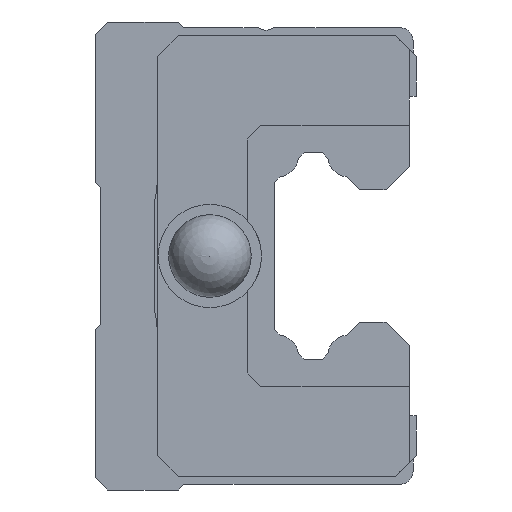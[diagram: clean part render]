
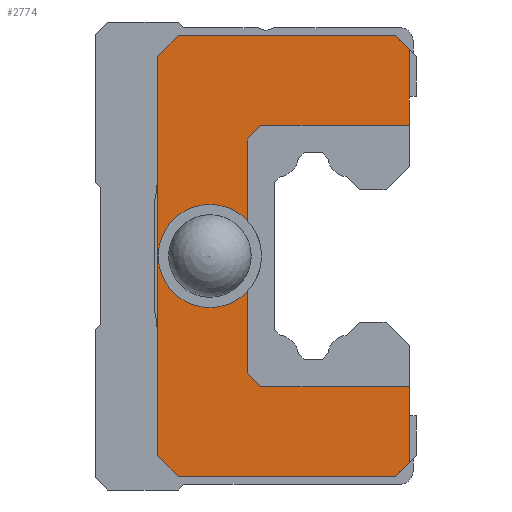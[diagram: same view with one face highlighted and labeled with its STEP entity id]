
A CAD part, left-side view. The second image highlights one B-rep face of the part: STEP entity #2774.
In plain terms, the highlighted planar face has unit normal (-1, 0, 0).
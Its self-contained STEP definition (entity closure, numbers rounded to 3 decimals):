
#38=LINE('',#3869,#358);
#44=LINE('',#3883,#364);
#53=LINE('',#3902,#373);
#60=LINE('',#3918,#380);
#64=LINE('',#3925,#384);
#96=LINE('',#3992,#416);
#112=LINE('',#4025,#432);
#115=LINE('',#4030,#435);
#151=LINE('',#4103,#471);
#169=LINE('',#4138,#489);
#175=LINE('',#4151,#495);
#280=LINE('',#4443,#600);
#281=LINE('',#4445,#601);
#282=LINE('',#4446,#602);
#283=LINE('',#4448,#603);
#358=VECTOR('',#3117,1000.);
#364=VECTOR('',#3125,1000.);
#373=VECTOR('',#3136,1000.);
#380=VECTOR('',#3149,1000.);
#384=VECTOR('',#3155,1000.);
#416=VECTOR('',#3199,1000.);
#432=VECTOR('',#3217,1000.);
#435=VECTOR('',#3222,1000.);
#471=VECTOR('',#3280,1000.);
#489=VECTOR('',#3304,1000.);
#495=VECTOR('',#3312,1000.);
#600=VECTOR('',#3615,1000.);
#601=VECTOR('',#3616,1000.);
#602=VECTOR('',#3617,1000.);
#603=VECTOR('',#3618,1000.);
#756=PLANE('',#2998);
#1329=ORIENTED_EDGE('',*,*,#1880,.T.);
#1330=ORIENTED_EDGE('',*,*,#1608,.T.);
#1331=ORIENTED_EDGE('',*,*,#1881,.F.);
#1332=ORIENTED_EDGE('',*,*,#1602,.T.);
#1333=ORIENTED_EDGE('',*,*,#1882,.T.);
#1334=ORIENTED_EDGE('',*,*,#1883,.T.);
#1335=ORIENTED_EDGE('',*,*,#1737,.F.);
#1336=ORIENTED_EDGE('',*,*,#1629,.F.);
#1337=ORIENTED_EDGE('',*,*,#1625,.F.);
#1338=ORIENTED_EDGE('',*,*,#1617,.F.);
#1339=ORIENTED_EDGE('',*,*,#1719,.F.);
#1340=ORIENTED_EDGE('',*,*,#1662,.F.);
#1341=ORIENTED_EDGE('',*,*,#1681,.F.);
#1342=ORIENTED_EDGE('',*,*,#1678,.F.);
#1343=ORIENTED_EDGE('',*,*,#1743,.F.);
#1344=ORIENTED_EDGE('',*,*,#1884,.T.);
#1345=ORIENTED_EDGE('',*,*,#1885,.T.);
#1602=EDGE_CURVE('',#1982,#1983,#38,.T.);
#1608=EDGE_CURVE('',#1989,#1988,#44,.T.);
#1617=EDGE_CURVE('',#1997,#1998,#53,.T.);
#1625=EDGE_CURVE('',#1998,#2004,#60,.T.);
#1629=EDGE_CURVE('',#2004,#2006,#64,.T.);
#1662=EDGE_CURVE('',#2034,#2035,#96,.T.);
#1678=EDGE_CURVE('',#2050,#2051,#112,.T.);
#1681=EDGE_CURVE('',#2051,#2034,#115,.T.);
#1719=EDGE_CURVE('',#2035,#1997,#151,.T.);
#1737=EDGE_CURVE('',#2006,#2092,#169,.T.);
#1743=EDGE_CURVE('',#2097,#2050,#175,.T.);
#1880=EDGE_CURVE('',#2185,#2185,#2276,.T.);
#1881=EDGE_CURVE('',#1982,#1988,#2277,.T.);
#1882=EDGE_CURVE('',#1983,#2186,#280,.T.);
#1883=EDGE_CURVE('',#2186,#2092,#281,.T.);
#1884=EDGE_CURVE('',#2097,#2187,#282,.T.);
#1885=EDGE_CURVE('',#2187,#1989,#283,.T.);
#1982=VERTEX_POINT('',#3870);
#1983=VERTEX_POINT('',#3871);
#1988=VERTEX_POINT('',#3882);
#1989=VERTEX_POINT('',#3884);
#1997=VERTEX_POINT('',#3901);
#1998=VERTEX_POINT('',#3903);
#2004=VERTEX_POINT('',#3919);
#2006=VERTEX_POINT('',#3926);
#2034=VERTEX_POINT('',#3991);
#2035=VERTEX_POINT('',#3993);
#2050=VERTEX_POINT('',#4024);
#2051=VERTEX_POINT('',#4026);
#2092=VERTEX_POINT('',#4139);
#2097=VERTEX_POINT('',#4150);
#2185=VERTEX_POINT('',#4441);
#2186=VERTEX_POINT('',#4444);
#2187=VERTEX_POINT('',#4447);
#2276=CIRCLE('',#2999,2.);
#2277=CIRCLE('',#3000,3.751);
#2419=EDGE_LOOP('',(#1329));
#2420=EDGE_LOOP('',(#1330,#1331,#1332,#1333,#1334,#1335,#1336,#1337,#1338,
#1339,#1340,#1341,#1342,#1343,#1344,#1345));
#2611=FACE_BOUND('',#2419,.T.);
#2612=FACE_BOUND('',#2420,.T.);
#2774=ADVANCED_FACE('',(#2611,#2612),#756,.F.);
#2998=AXIS2_PLACEMENT_3D('',#4439,#3609,#3610);
#2999=AXIS2_PLACEMENT_3D('',#4440,#3611,#3612);
#3000=AXIS2_PLACEMENT_3D('',#4442,#3613,#3614);
#3117=DIRECTION('',(0.,0.,1.));
#3125=DIRECTION('',(0.,0.,1.));
#3136=DIRECTION('',(0.,-0.707,0.707));
#3149=DIRECTION('',(0.,-1.,0.));
#3155=DIRECTION('',(0.,-0.707,-0.707));
#3199=DIRECTION('',(0.,0.707,0.707));
#3217=DIRECTION('',(0.,0.707,-0.707));
#3222=DIRECTION('',(0.,1.,0.));
#3280=DIRECTION('',(0.,0.,1.));
#3304=DIRECTION('',(0.,0.,-1.));
#3312=DIRECTION('',(0.,0.,-1.));
#3609=DIRECTION('',(1.,0.,0.));
#3610=DIRECTION('',(0.,0.,-1.));
#3611=DIRECTION('',(1.,0.,0.));
#3612=DIRECTION('',(0.,0.,-1.));
#3613=DIRECTION('',(1.,0.,0.));
#3614=DIRECTION('',(0.,0.,-1.));
#3615=DIRECTION('',(0.,-0.707,0.707));
#3616=DIRECTION('',(0.,-1.,0.));
#3617=DIRECTION('',(0.,1.,0.));
#3618=DIRECTION('',(0.,0.707,0.707));
#3869=CARTESIAN_POINT('',(-35.3,12.3,-8.5));
#3870=CARTESIAN_POINT('',(-35.3,12.3,2.604));
#3871=CARTESIAN_POINT('',(-35.3,12.3,8.5));
#3882=CARTESIAN_POINT('',(-35.3,12.3,-2.604));
#3883=CARTESIAN_POINT('',(-35.3,12.3,-8.5));
#3884=CARTESIAN_POINT('',(-35.3,12.3,-8.5));
#3901=CARTESIAN_POINT('',(-35.3,18.8,14.5));
#3902=CARTESIAN_POINT('',(-35.3,18.8,14.5));
#3903=CARTESIAN_POINT('',(-35.3,17.3,16.));
#3918=CARTESIAN_POINT('',(-35.3,23.3,16.));
#3919=CARTESIAN_POINT('',(-35.3,1.5,16.));
#3925=CARTESIAN_POINT('',(-35.3,1.5,16.));
#3926=CARTESIAN_POINT('',(-35.3,0.5,15.));
#3991=CARTESIAN_POINT('',(-35.3,17.3,-16.));
#3992=CARTESIAN_POINT('',(-35.3,17.3,-16.));
#3993=CARTESIAN_POINT('',(-35.3,18.8,-14.5));
#4024=CARTESIAN_POINT('',(-35.3,0.5,-15.));
#4025=CARTESIAN_POINT('',(-35.3,0.,-14.5));
#4026=CARTESIAN_POINT('',(-35.3,1.5,-16.));
#4030=CARTESIAN_POINT('',(-35.3,0.,-16.));
#4103=CARTESIAN_POINT('',(-35.3,18.8,-14.5));
#4138=CARTESIAN_POINT('',(-35.3,0.5,12.));
#4139=CARTESIAN_POINT('',(-35.3,0.5,9.5));
#4150=CARTESIAN_POINT('',(-35.3,0.5,-9.5));
#4151=CARTESIAN_POINT('',(-35.3,0.5,12.));
#4439=CARTESIAN_POINT('',(-35.3,0.,0.));
#4440=CARTESIAN_POINT('',(-35.3,15.,0.));
#4441=CARTESIAN_POINT('',(-35.3,15.,-2.));
#4442=CARTESIAN_POINT('',(-35.3,15.,0.));
#4443=CARTESIAN_POINT('',(-35.3,12.3,8.5));
#4444=CARTESIAN_POINT('',(-35.3,11.3,9.5));
#4445=CARTESIAN_POINT('',(-35.3,11.3,9.5));
#4446=CARTESIAN_POINT('',(-35.3,0.5,-9.5));
#4447=CARTESIAN_POINT('',(-35.3,11.3,-9.5));
#4448=CARTESIAN_POINT('',(-35.3,11.3,-9.5));
